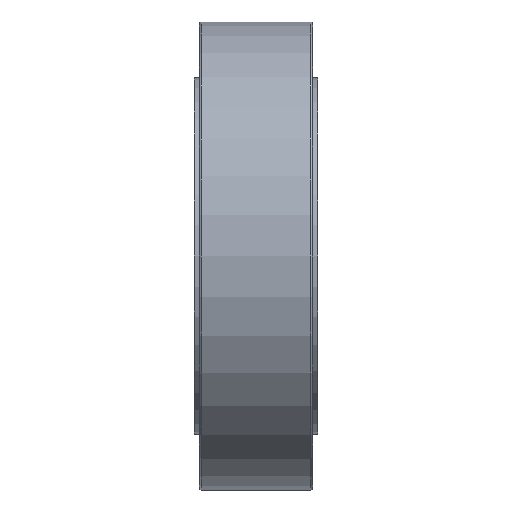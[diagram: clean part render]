
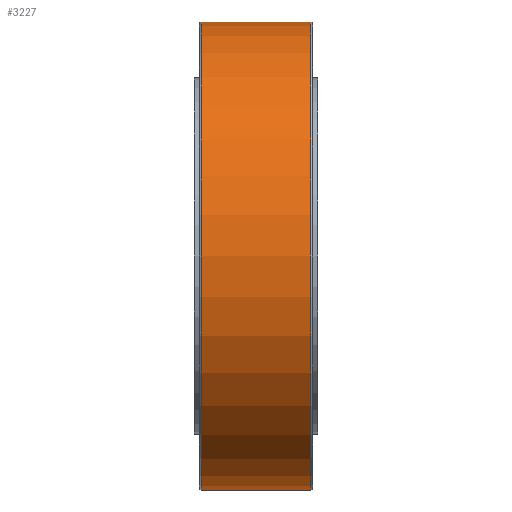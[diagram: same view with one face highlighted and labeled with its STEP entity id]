
A CAD part, front view. The second image highlights one B-rep face of the part: STEP entity #3227.
In plain terms, the highlighted cylindrical face has radius 132.5 mm (diameter 265 mm), a partial arc.
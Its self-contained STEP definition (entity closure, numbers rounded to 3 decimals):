
#647 = CARTESIAN_POINT ( 'NONE',  ( 31., 0., -132.5 ) ) ;
#845 = CARTESIAN_POINT ( 'NONE',  ( -31., 0., -132.5 ) ) ;
#978 = CARTESIAN_POINT ( 'NONE',  ( -31., 0., 132.5 ) ) ;
#1012 = CARTESIAN_POINT ( 'NONE',  ( 31., 0., 132.5 ) ) ;
#1683 = DIRECTION ( 'NONE',  ( -1., 0., 0. ) ) ;
#1684 = VECTOR ( 'NONE', #1683, 1000. ) ;
#1685 = CARTESIAN_POINT ( 'NONE',  ( -41.122, 0., -132.5 ) ) ;
#1696 = LINE ( 'NONE', #1685, #1684 ) ;
#1760 = DIRECTION ( 'NONE',  ( -1., 0., 0. ) ) ;
#1761 = VECTOR ( 'NONE', #1760, 1000. ) ;
#1762 = CARTESIAN_POINT ( 'NONE',  ( -41.122, 0., 132.5 ) ) ;
#1764 = LINE ( 'NONE', #1762, #1761 ) ;
#1919 = AXIS2_PLACEMENT_3D ( 'NONE', #1964, #1963, #1962 ) ;
#1920 = CYLINDRICAL_SURFACE ( 'NONE', #1933, 132.5 ) ;
#1921 = FACE_OUTER_BOUND ( 'NONE', #3259, .T. ) ;
#1928 = DIRECTION ( 'NONE',  ( 0., 0., 1. ) ) ;
#1929 = DIRECTION ( 'NONE',  ( -1., 0., 0. ) ) ;
#1930 = CARTESIAN_POINT ( 'NONE',  ( 31., 0., 0. ) ) ;
#1931 = AXIS2_PLACEMENT_3D ( 'NONE', #1930, #1929, #1928 ) ;
#1932 = CIRCLE ( 'NONE', #1931, 132.5 ) ;
#1933 = AXIS2_PLACEMENT_3D ( 'NONE', #1968, #1967, #1966 ) ;
#1962 = DIRECTION ( 'NONE',  ( 0., 0., -1. ) ) ;
#1963 = DIRECTION ( 'NONE',  ( 1., 0., 0. ) ) ;
#1964 = CARTESIAN_POINT ( 'NONE',  ( -31., 0., 0. ) ) ;
#1965 = CIRCLE ( 'NONE', #1919, 132.5 ) ;
#1966 = DIRECTION ( 'NONE',  ( 0., 0., 1. ) ) ;
#1967 = DIRECTION ( 'NONE',  ( -1., 0., 0. ) ) ;
#1968 = CARTESIAN_POINT ( 'NONE',  ( -41.122, 0., 0. ) ) ;
#2624 = VERTEX_POINT ( 'NONE', #845 ) ;
#2640 = VERTEX_POINT ( 'NONE', #647 ) ;
#2686 = VERTEX_POINT ( 'NONE', #978 ) ;
#2699 = VERTEX_POINT ( 'NONE', #1012 ) ;
#3101 = EDGE_CURVE ( 'NONE', #2640, #2624, #1696, .T. ) ;
#3123 = EDGE_CURVE ( 'NONE', #2699, #2686, #1764, .T. ) ;
#3216 = EDGE_CURVE ( 'NONE', #2640, #2699, #1932, .T. ) ;
#3225 = ORIENTED_EDGE ( 'NONE', *, *, #3101, .F. ) ;
#3227 = ADVANCED_FACE ( 'NONE', ( #1921 ), #1920, .T. ) ;
#3228 = EDGE_CURVE ( 'NONE', #2686, #2624, #1965, .T. ) ;
#3229 = ORIENTED_EDGE ( 'NONE', *, *, #3216, .T. ) ;
#3233 = ORIENTED_EDGE ( 'NONE', *, *, #3123, .T. ) ;
#3235 = ORIENTED_EDGE ( 'NONE', *, *, #3228, .T. ) ;
#3259 = EDGE_LOOP ( 'NONE', ( #3225, #3229, #3233, #3235 ) ) ;
